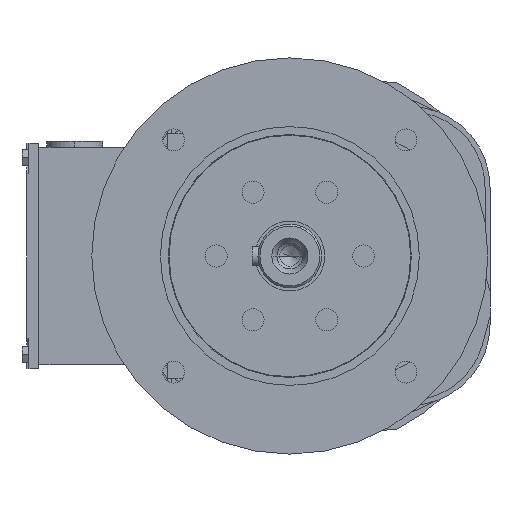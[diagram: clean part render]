
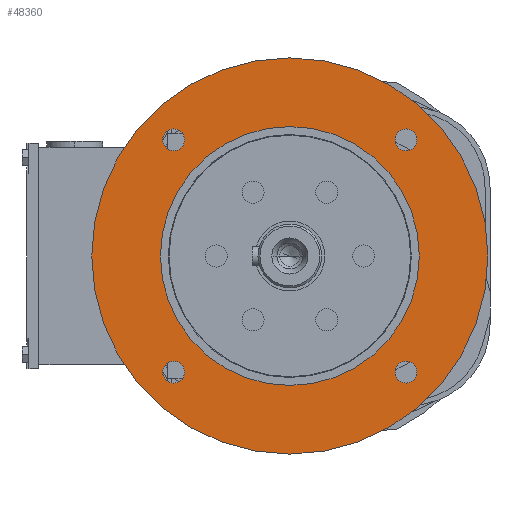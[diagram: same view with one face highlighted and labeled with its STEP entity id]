
A CAD part, left-side view. The second image highlights one B-rep face of the part: STEP entity #48360.
In plain terms, the highlighted planar face has unit normal (-1, 0, 0).
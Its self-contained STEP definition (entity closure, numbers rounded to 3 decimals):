
#46050=CARTESIAN_POINT('',(50.,-52.836,58.336));
#46060=VERTEX_POINT('',#46050);
#46140=CARTESIAN_POINT('',(50.,-63.836,58.336));
#46150=VERTEX_POINT('',#46140);
#46180=CARTESIAN_POINT('',(50.,-58.336,58.336));
#46190=DIRECTION('',(-1.,0.,0.));
#46200=DIRECTION('',(0.,-1.,-0.));
#46210=AXIS2_PLACEMENT_3D('',#46180,#46190,#46200);
#46220=CIRCLE('',#46210,5.5);
#46230=EDGE_CURVE('',#46060,#46150,#46220,.T.);
#46370=CARTESIAN_POINT('',(50.,-52.836,-58.336));
#46380=VERTEX_POINT('',#46370);
#46460=CARTESIAN_POINT('',(50.,-63.836,-58.336));
#46470=VERTEX_POINT('',#46460);
#46500=CARTESIAN_POINT('',(50.,-58.336,-58.336));
#46510=DIRECTION('',(-1.,0.,0.));
#46520=DIRECTION('',(0.,-1.,-0.));
#46530=AXIS2_PLACEMENT_3D('',#46500,#46510,#46520);
#46540=CIRCLE('',#46530,5.5);
#46550=EDGE_CURVE('',#46380,#46470,#46540,.T.);
#47610=CARTESIAN_POINT('',(50.,0.,86.393));
#47620=DIRECTION('',(-1.,0.,-0.));
#47630=DIRECTION('',(0.,0.,-1.));
#47640=AXIS2_PLACEMENT_3D('',#47610,#47620,#47630);
#47650=PLANE('',#47640);
#47660=CARTESIAN_POINT('',(50.,58.336,-58.336));
#47670=DIRECTION('',(-1.,0.,0.));
#47680=DIRECTION('',(0.,-1.,-0.));
#47690=AXIS2_PLACEMENT_3D('',#47660,#47670,#47680);
#47700=CIRCLE('',#47690,5.5);
#47710=CARTESIAN_POINT('',(50.,52.836,-58.336));
#47720=VERTEX_POINT('',#47710);
#47730=CARTESIAN_POINT('',(50.,63.836,-58.336));
#47740=VERTEX_POINT('',#47730);
#47750=EDGE_CURVE('',#47720,#47740,#47700,.T.);
#47760=ORIENTED_EDGE('',*,*,#47750,.F.);
#47770=EDGE_CURVE('',#47740,#47720,#47700,.T.);
#47780=ORIENTED_EDGE('',*,*,#47770,.F.);
#47790=EDGE_LOOP('',(#47780,#47760));
#47800=FACE_BOUND('',#47790,.T.);
#47810=CARTESIAN_POINT('',(50.,58.336,58.336));
#47820=DIRECTION('',(-1.,0.,0.));
#47830=DIRECTION('',(0.,-1.,-0.));
#47840=AXIS2_PLACEMENT_3D('',#47810,#47820,#47830);
#47850=CIRCLE('',#47840,5.5);
#47860=CARTESIAN_POINT('',(50.,52.836,58.336));
#47870=VERTEX_POINT('',#47860);
#47880=CARTESIAN_POINT('',(50.,63.836,58.336));
#47890=VERTEX_POINT('',#47880);
#47900=EDGE_CURVE('',#47870,#47890,#47850,.T.);
#47910=ORIENTED_EDGE('',*,*,#47900,.F.);
#47920=EDGE_CURVE('',#47890,#47870,#47850,.T.);
#47930=ORIENTED_EDGE('',*,*,#47920,.F.);
#47940=EDGE_LOOP('',(#47930,#47910));
#47950=FACE_BOUND('',#47940,.T.);
#47960=CARTESIAN_POINT('',(50.,0.,0.));
#47970=DIRECTION('',(-1.,0.,0.));
#47980=DIRECTION('',(0.,0.,-1.));
#47990=AXIS2_PLACEMENT_3D('',#47960,#47970,#47980);
#48000=CIRCLE('',#47990,65.);
#48010=CARTESIAN_POINT('',(50.,0.,65.));
#48020=VERTEX_POINT('',#48010);
#48030=CARTESIAN_POINT('',(50.,0.,-65.));
#48040=VERTEX_POINT('',#48030);
#48050=EDGE_CURVE('',#48020,#48040,#48000,.T.);
#48060=ORIENTED_EDGE('',*,*,#48050,.F.);
#48070=EDGE_CURVE('',#48040,#48020,#48000,.T.);
#48080=ORIENTED_EDGE('',*,*,#48070,.F.);
#48090=EDGE_LOOP('',(#48080,#48060));
#48100=FACE_BOUND('',#48090,.T.);
#48110=EDGE_CURVE('',#46470,#46380,#46540,.T.);
#48120=ORIENTED_EDGE('',*,*,#48110,.F.);
#48130=ORIENTED_EDGE('',*,*,#46550,.F.);
#48140=EDGE_LOOP('',(#48130,#48120));
#48150=FACE_BOUND('',#48140,.T.);
#48160=EDGE_CURVE('',#46150,#46060,#46220,.T.);
#48170=ORIENTED_EDGE('',*,*,#48160,.F.);
#48180=ORIENTED_EDGE('',*,*,#46230,.F.);
#48190=EDGE_LOOP('',(#48180,#48170));
#48200=FACE_BOUND('',#48190,.T.);
#48210=CARTESIAN_POINT('',(50.,0.,0.));
#48220=DIRECTION('',(-1.,0.,0.));
#48230=DIRECTION('',(0.,0.,1.));
#48240=AXIS2_PLACEMENT_3D('',#48210,#48220,#48230);
#48250=CIRCLE('',#48240,99.474);
#48260=CARTESIAN_POINT('',(50.,0.,99.474));
#48270=VERTEX_POINT('',#48260);
#48280=CARTESIAN_POINT('',(50.,0.,-99.474));
#48290=VERTEX_POINT('',#48280);
#48300=EDGE_CURVE('',#48270,#48290,#48250,.T.);
#48310=ORIENTED_EDGE('',*,*,#48300,.T.);
#48320=EDGE_CURVE('',#48290,#48270,#48250,.T.);
#48330=ORIENTED_EDGE('',*,*,#48320,.T.);
#48340=EDGE_LOOP('',(#48330,#48310));
#48350=FACE_OUTER_BOUND('',#48340,.T.);
#48360=ADVANCED_FACE('',(#47800,#47950,#48100,#48150,#48200,#48350),#47650,.T.);
